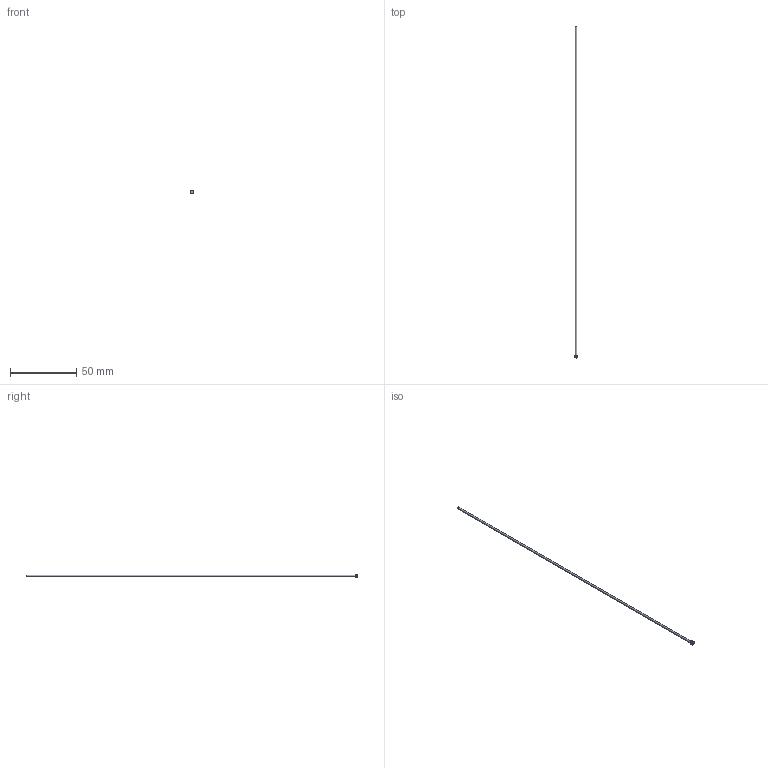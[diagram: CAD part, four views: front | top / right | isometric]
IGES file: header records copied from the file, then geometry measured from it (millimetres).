
Start section: SolidWorks IGES file using analytic representation for surfaces
Global section: file name: C:\Users\User\Downloads\Matripeça 31-08 tar\PB - PINO EXTRATOR TIPO _B_ (CATÁLOGO)\PB01,5\PB01,5250.IGS; native system: SolidWorks 2024; preprocessor: SolidWorks 2024; author: User; date: 260901.160105; units: millimetre
Bounding box: 3 x 250 x 3 mm (x, y, z)
Surface area: 1201.3 mm2 (no closed solid volume)
Topology: 0 solids, 0 shells, 402 faces, 2683 edges, 2683 vertices
Faces by surface type: bspline 388, revolution 14
